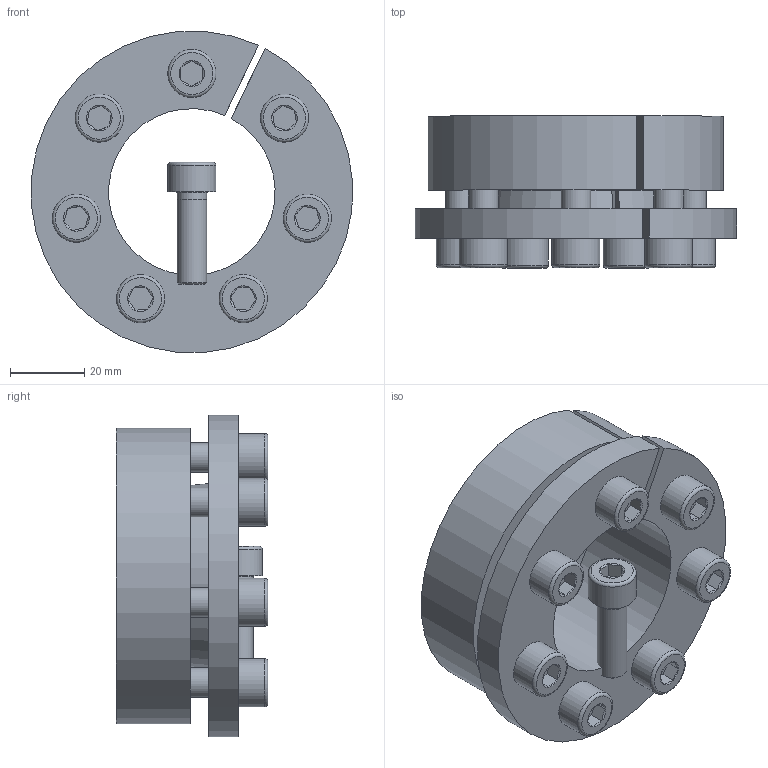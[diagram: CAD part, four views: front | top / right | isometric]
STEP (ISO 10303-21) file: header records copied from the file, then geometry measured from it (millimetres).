
FILE_DESCRIPTION( ( 'Unknown' ), '1' );
FILE_NAME( 'C:/Dokumente und Einstellungen/Sven/Desktop/15/KBS 15 - 45 x 80.stp', 'Unknown', ( 'Unknown' ), ( 'Unknown' ), 'XStep 1.0', 'Unknown', ' ' );
FILE_SCHEMA( ( 'automotive_design' ) );
Length unit declared in the file: millimetre
Products named in the file (3): Assem1; ISO EN DIN 4762 M8x25_25; KBS 15 - 45 x 80_0
Bounding box: 86.78 x 41 x 86.75 mm (x, y, z)
Volume: 208846.2 mm3; surface area: 73464.5 mm2
Topology: 10 solids, 10 shells, 252 faces, 524 edges, 324 vertices
Faces by surface type: plane 110, cylinder 66, cone 60, torus 16
Full cylindrical faces by diameter (mm): 6.647 x14, 7 x8, 8 x16, 9 x14, 13 x8
Entity records: 1692 total; most frequent: CARTESIAN_POINT 266, DIRECTION 262, ORIENTED_EDGE 186, AXIS2_PLACEMENT_3D 115, EDGE_LOOP 104, EDGE_CURVE 93, FACE_OUTER_BOUND 71, VERTEX_POINT 71
